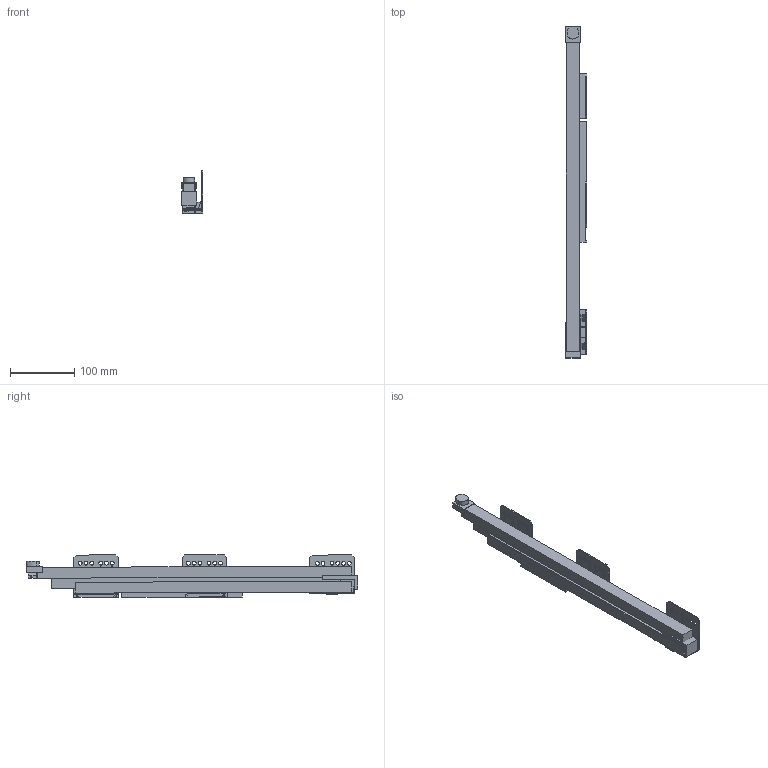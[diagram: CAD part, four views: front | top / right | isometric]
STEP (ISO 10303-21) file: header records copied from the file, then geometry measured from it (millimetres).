
FILE_DESCRIPTION (( 'STEP AP214' ), '1' );
FILE_NAME ('_IMOS Dynamic-XP VA 60kg NL500 RE Tipmatic.step', '2010-07-08T13:27:24', ( 'grass' ), ( '' ), 'SwSTEP 2.0', 'SolidWorks 2010', '' );
FILE_SCHEMA (( 'AUTOMOTIVE_DESIGN' ));
Length unit declared in the file: millimetre
Products named in the file (1): _IMOS Dynamic-XP VA 60kg NL500 RE Tipmatic
Bounding box: 33.14 x 518.02 x 66.67 mm (x, y, z)
Volume: 463722.9 mm3; surface area: 179075.4 mm2
Topology: 9 solids, 9 shells, 238 faces, 652 edges, 434 vertices
Faces by surface type: plane 167, cylinder 71
Entity records: 7758 total; most frequent: CARTESIAN_POINT 1325, ORIENTED_EDGE 1304, DIRECTION 1274, EDGE_CURVE 652, LINE 508, VECTOR 508, VERTEX_POINT 434, AXIS2_PLACEMENT_3D 383
